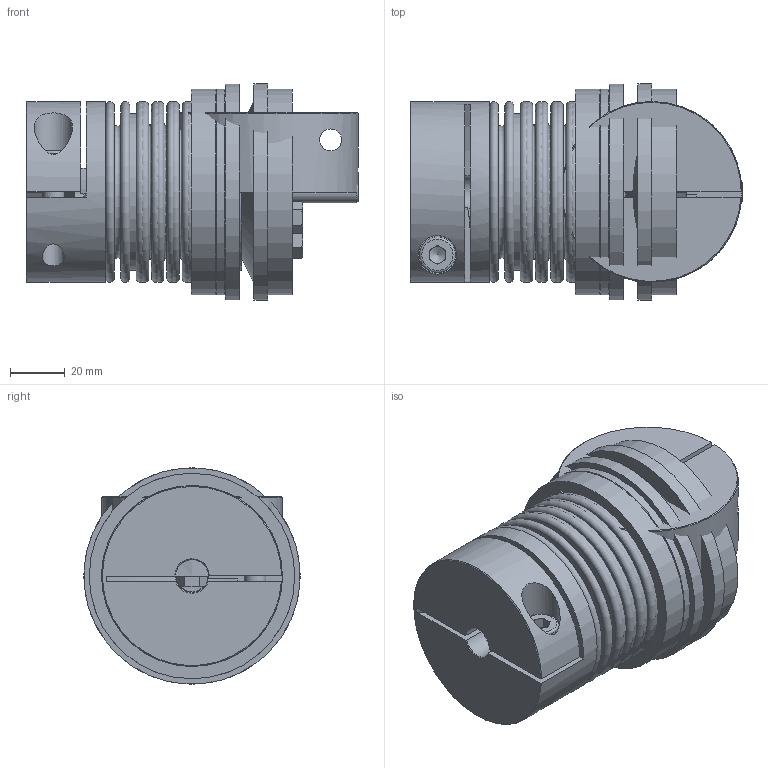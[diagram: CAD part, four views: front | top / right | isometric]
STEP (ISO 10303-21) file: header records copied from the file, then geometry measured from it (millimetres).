
FILE_DESCRIPTION( ( 'Unknown' ), '1' );
FILE_NAME( 'C:/Dokumente und Einstellungen/SKarpstein/Desktop/Korrigierte 3D Modelle/KBK-BKI-60-100.stp', 'Unknown', ( 'Unknown' ), ( 'Unknown' ), 'XStep 1.0', 'Unknown', ' ' );
FILE_SCHEMA( ( 'automotive_design' ) );
Length unit declared in the file: millimetre
Products named in the file (10): Assem1; Stellring 60; Druckring 60; KBK L-I-60 Grundkörper; Konusbuchse 60; din_en_24017_m6x20; Flansch BK60; BL60_Standard_0; KN60_Standard_2; Socket Head Cap Screw_DIN_DIN 912 M8 x 25 --- 25N_2
Bounding box: 121.2 x 79 x 79 mm (x, y, z)
Volume: 441439 mm3; surface area: 240885.8 mm2
Topology: 23 solids, 23 shells, 546 faces, 1122 edges, 721 vertices
Faces by surface type: plane 259, cylinder 118, cone 106, torus 63
Full cylindrical faces by diameter (mm): 3.242 x6, 4 x6, 4.917 x18, 6 x7, 6.6 x12, 8 x4, 8.5 x2, 8.8 x7, 12 x2, 13 x2, 14 x2, 15 x4, 30.2 x2, 33 x2, 35 x4, 42 x2, 46 x4, 46.5 x2, 47 x2, 49.5 x2, 56.3 x4, 57.3 x4, 61.3 x2, 66 x4, 75 x4, 79 x2
Entity records: 6020 total; most frequent: CARTESIAN_POINT 1395, DIRECTION 979, ORIENTED_EDGE 660, AXIS2_PLACEMENT_3D 449, EDGE_LOOP 398, EDGE_CURVE 330, FACE_OUTER_BOUND 298, VERTEX_POINT 269
